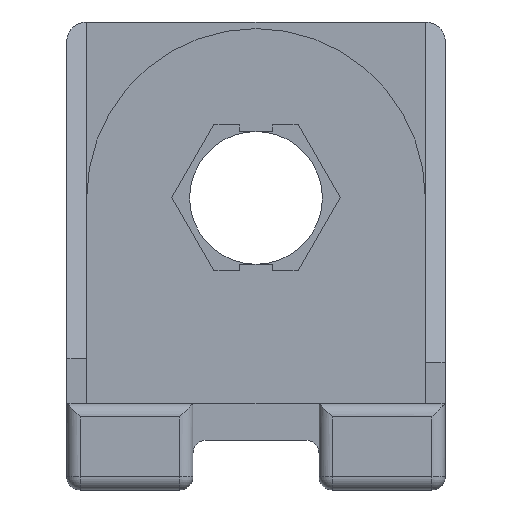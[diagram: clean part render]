
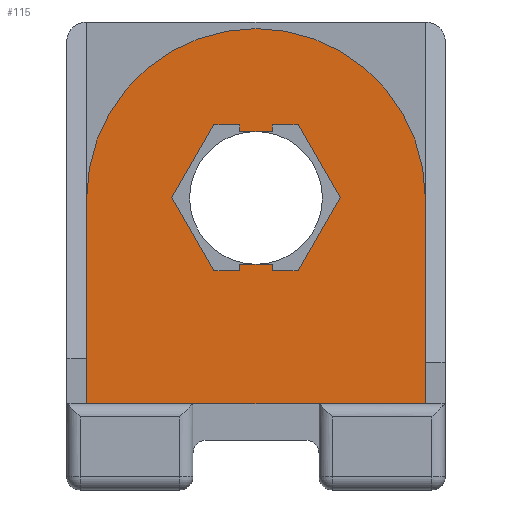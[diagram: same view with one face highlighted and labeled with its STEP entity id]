
A CAD part, front view. The second image highlights one B-rep face of the part: STEP entity #115.
In plain terms, the highlighted planar face has unit normal (0, -1, 0).
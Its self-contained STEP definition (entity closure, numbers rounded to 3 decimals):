
#115 = ADVANCED_FACE( '', ( #245, #246 ), #247, .T. );
#245 = FACE_BOUND( '', #678, .T. );
#246 = FACE_OUTER_BOUND( '', #679, .T. );
#247 = PLANE( '', #680 );
#678 = EDGE_LOOP( '', ( #1071, #1072, #1073, #1074, #1075, #1076, #1077, #1078, #1079, #1080, #1081, #1082, #1083, #1084 ) );
#679 = EDGE_LOOP( '', ( #1085, #1086, #1087, #1088 ) );
#680 = AXIS2_PLACEMENT_3D( '', #1089, #1090, #1091 );
#1071 = ORIENTED_EDGE( '', *, *, #1572, .T. );
#1072 = ORIENTED_EDGE( '', *, *, #1573, .T. );
#1073 = ORIENTED_EDGE( '', *, *, #1574, .T. );
#1074 = ORIENTED_EDGE( '', *, *, #1575, .T. );
#1075 = ORIENTED_EDGE( '', *, *, #1576, .T. );
#1076 = ORIENTED_EDGE( '', *, *, #1577, .T. );
#1077 = ORIENTED_EDGE( '', *, *, #1578, .T. );
#1078 = ORIENTED_EDGE( '', *, *, #1579, .T. );
#1079 = ORIENTED_EDGE( '', *, *, #1580, .T. );
#1080 = ORIENTED_EDGE( '', *, *, #1581, .T. );
#1081 = ORIENTED_EDGE( '', *, *, #1582, .T. );
#1082 = ORIENTED_EDGE( '', *, *, #1583, .T. );
#1083 = ORIENTED_EDGE( '', *, *, #1584, .T. );
#1084 = ORIENTED_EDGE( '', *, *, #1585, .T. );
#1085 = ORIENTED_EDGE( '', *, *, #1586, .F. );
#1086 = ORIENTED_EDGE( '', *, *, #1561, .T. );
#1087 = ORIENTED_EDGE( '', *, *, #1587, .T. );
#1088 = ORIENTED_EDGE( '', *, *, #1570, .T. );
#1089 = CARTESIAN_POINT( '', ( -28.5, 2., 70.5 ) );
#1090 = DIRECTION( '', ( 0., -1., 0. ) );
#1091 = DIRECTION( '', ( 0., 0., -1. ) );
#1561 = EDGE_CURVE( '', #1828, #1826, #1829, .T. );
#1570 = EDGE_CURVE( '', #1841, #1839, #1842, .T. );
#1572 = EDGE_CURVE( '', #1844, #1845, #1846, .T. );
#1573 = EDGE_CURVE( '', #1845, #1847, #1848, .T. );
#1574 = EDGE_CURVE( '', #1847, #1849, #1850, .T. );
#1575 = EDGE_CURVE( '', #1849, #1851, #1852, .T. );
#1576 = EDGE_CURVE( '', #1851, #1853, #1854, .T. );
#1577 = EDGE_CURVE( '', #1853, #1855, #1856, .T. );
#1578 = EDGE_CURVE( '', #1855, #1857, #1858, .T. );
#1579 = EDGE_CURVE( '', #1857, #1859, #1860, .T. );
#1580 = EDGE_CURVE( '', #1859, #1861, #1862, .T. );
#1581 = EDGE_CURVE( '', #1861, #1863, #1864, .T. );
#1582 = EDGE_CURVE( '', #1863, #1865, #1866, .T. );
#1583 = EDGE_CURVE( '', #1865, #1867, #1868, .T. );
#1584 = EDGE_CURVE( '', #1867, #1869, #1870, .T. );
#1585 = EDGE_CURVE( '', #1869, #1844, #1871, .T. );
#1586 = EDGE_CURVE( '', #1828, #1839, #1872, .T. );
#1587 = EDGE_CURVE( '', #1826, #1841, #1873, .T. );
#1826 = VERTEX_POINT( '', #2209 );
#1828 = VERTEX_POINT( '', #2212 );
#1829 = LINE( '', #2213, #2214 );
#1839 = VERTEX_POINT( '', #2230 );
#1841 = VERTEX_POINT( '', #2233 );
#1842 = LINE( '', #2234, #2235 );
#1844 = VERTEX_POINT( '', #2238 );
#1845 = VERTEX_POINT( '', #2239 );
#1846 = LINE( '', #2240, #2241 );
#1847 = VERTEX_POINT( '', #2242 );
#1848 = LINE( '', #2243, #2244 );
#1849 = VERTEX_POINT( '', #2245 );
#1850 = LINE( '', #2246, #2247 );
#1851 = VERTEX_POINT( '', #2248 );
#1852 = LINE( '', #2249, #2250 );
#1853 = VERTEX_POINT( '', #2251 );
#1854 = LINE( '', #2252, #2253 );
#1855 = VERTEX_POINT( '', #2254 );
#1856 = LINE( '', #2255, #2256 );
#1857 = VERTEX_POINT( '', #2257 );
#1858 = LINE( '', #2258, #2259 );
#1859 = VERTEX_POINT( '', #2260 );
#1860 = LINE( '', #2261, #2262 );
#1861 = VERTEX_POINT( '', #2263 );
#1862 = LINE( '', #2264, #2265 );
#1863 = VERTEX_POINT( '', #2266 );
#1864 = LINE( '', #2267, #2268 );
#1865 = VERTEX_POINT( '', #2269 );
#1866 = LINE( '', #2270, #2271 );
#1867 = VERTEX_POINT( '', #2272 );
#1868 = LINE( '', #2273, #2274 );
#1869 = VERTEX_POINT( '', #2275 );
#1870 = LINE( '', #2276, #2277 );
#1871 = LINE( '', #2278, #2279 );
#1872 = LINE( '', #2280, #2281 );
#1873 = CIRCLE( '', #2282, 25.5 );
#2209 = CARTESIAN_POINT( '', ( 25.5, 2., 44. ) );
#2212 = CARTESIAN_POINT( '', ( 25.5, 2., 13. ) );
#2213 = CARTESIAN_POINT( '', ( 25.5, 2., 44. ) );
#2214 = VECTOR( '', #2644, 1000. );
#2230 = CARTESIAN_POINT( '', ( -25.5, 2., 13. ) );
#2233 = CARTESIAN_POINT( '', ( -25.5, 2., 44. ) );
#2234 = CARTESIAN_POINT( '', ( -25.5, 2., 44. ) );
#2235 = VECTOR( '', #2655, 1000. );
#2238 = CARTESIAN_POINT( '', ( -2.45, 2., 54. ) );
#2239 = CARTESIAN_POINT( '', ( 2.45, 2., 54. ) );
#2240 = CARTESIAN_POINT( '', ( -2.45, 2., 54. ) );
#2241 = VECTOR( '', #2657, 1000. );
#2242 = CARTESIAN_POINT( '', ( 2.45, 2., 55. ) );
#2243 = CARTESIAN_POINT( '', ( 2.45, 2., 54. ) );
#2244 = VECTOR( '', #2658, 1000. );
#2245 = CARTESIAN_POINT( '', ( 6.351, 2., 55. ) );
#2246 = CARTESIAN_POINT( '', ( 2.45, 2., 55. ) );
#2247 = VECTOR( '', #2659, 1000. );
#2248 = CARTESIAN_POINT( '', ( 12.702, 2., 44. ) );
#2249 = CARTESIAN_POINT( '', ( 6.351, 2., 55. ) );
#2250 = VECTOR( '', #2660, 1000. );
#2251 = CARTESIAN_POINT( '', ( 6.351, 2., 33. ) );
#2252 = CARTESIAN_POINT( '', ( 12.702, 2., 44. ) );
#2253 = VECTOR( '', #2661, 1000. );
#2254 = CARTESIAN_POINT( '', ( 2.45, 2., 33. ) );
#2255 = CARTESIAN_POINT( '', ( 2.45, 2., 33. ) );
#2256 = VECTOR( '', #2662, 1000. );
#2257 = CARTESIAN_POINT( '', ( 2.45, 2., 34. ) );
#2258 = CARTESIAN_POINT( '', ( 2.45, 2., 34. ) );
#2259 = VECTOR( '', #2663, 1000. );
#2260 = CARTESIAN_POINT( '', ( -2.45, 2., 34. ) );
#2261 = CARTESIAN_POINT( '', ( -2.45, 2., 34. ) );
#2262 = VECTOR( '', #2664, 1000. );
#2263 = CARTESIAN_POINT( '', ( -2.45, 2., 33. ) );
#2264 = CARTESIAN_POINT( '', ( -2.45, 2., 34. ) );
#2265 = VECTOR( '', #2665, 1000. );
#2266 = CARTESIAN_POINT( '', ( -6.351, 2., 33. ) );
#2267 = CARTESIAN_POINT( '', ( -6.351, 2., 33. ) );
#2268 = VECTOR( '', #2666, 1000. );
#2269 = CARTESIAN_POINT( '', ( -12.702, 2., 44. ) );
#2270 = CARTESIAN_POINT( '', ( -12.702, 2., 44. ) );
#2271 = VECTOR( '', #2667, 1000. );
#2272 = CARTESIAN_POINT( '', ( -6.351, 2., 55. ) );
#2273 = CARTESIAN_POINT( '', ( -6.351, 2., 55. ) );
#2274 = VECTOR( '', #2668, 1000. );
#2275 = CARTESIAN_POINT( '', ( -2.45, 2., 55. ) );
#2276 = CARTESIAN_POINT( '', ( -6.351, 2., 55. ) );
#2277 = VECTOR( '', #2669, 1000. );
#2278 = CARTESIAN_POINT( '', ( -2.45, 2., 55. ) );
#2279 = VECTOR( '', #2670, 1000. );
#2280 = CARTESIAN_POINT( '', ( -28.5, 2., 13. ) );
#2281 = VECTOR( '', #2671, 1000. );
#2282 = AXIS2_PLACEMENT_3D( '', #2672, #2673, #2674 );
#2644 = DIRECTION( '', ( 0., 0., 1. ) );
#2655 = DIRECTION( '', ( 0., 0., -1. ) );
#2657 = DIRECTION( '', ( 1., 0., 0. ) );
#2658 = DIRECTION( '', ( 0., 0., 1. ) );
#2659 = DIRECTION( '', ( 1., 0., 0. ) );
#2660 = DIRECTION( '', ( 0.5, 0., -0.866 ) );
#2661 = DIRECTION( '', ( -0.5, 0., -0.866 ) );
#2662 = DIRECTION( '', ( -1., 0., 0. ) );
#2663 = DIRECTION( '', ( 0., 0., 1. ) );
#2664 = DIRECTION( '', ( -1., 0., 0. ) );
#2665 = DIRECTION( '', ( 0., 0., -1. ) );
#2666 = DIRECTION( '', ( -1., 0., 0. ) );
#2667 = DIRECTION( '', ( -0.5, 0., 0.866 ) );
#2668 = DIRECTION( '', ( 0.5, 0., 0.866 ) );
#2669 = DIRECTION( '', ( 1., 0., 0. ) );
#2670 = DIRECTION( '', ( 0., 0., -1. ) );
#2671 = DIRECTION( '', ( -1., 0., 0. ) );
#2672 = CARTESIAN_POINT( '', ( 0., 2., 44. ) );
#2673 = DIRECTION( '', ( 0., -1., 0. ) );
#2674 = DIRECTION( '', ( 1., 0., 0. ) );
